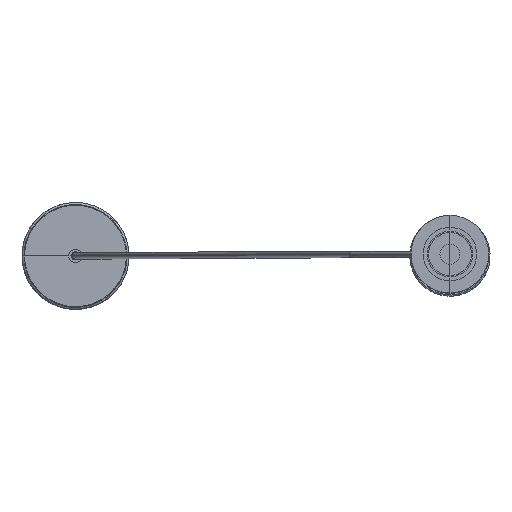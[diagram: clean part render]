
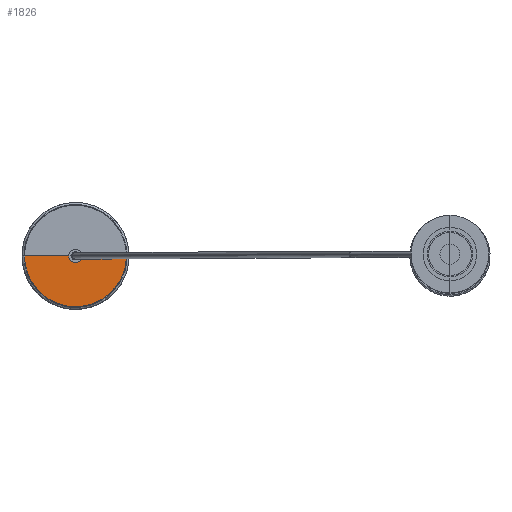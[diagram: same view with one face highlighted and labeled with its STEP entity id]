
A CAD part, top view. The second image highlights one B-rep face of the part: STEP entity #1826.
In plain terms, the highlighted planar face has unit normal (0, 0, 1).
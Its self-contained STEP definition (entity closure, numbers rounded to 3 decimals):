
#41=B_SPLINE_CURVE_WITH_KNOTS('',3,(#2834,#2835,#2836,#2837),
 .UNSPECIFIED.,.F.,.F.,(4,4),(0.833,1.),.UNSPECIFIED.);
#42=B_SPLINE_CURVE_WITH_KNOTS('',3,(#2839,#2840,#2841,#2842,#2843,#2844,
#2845),.UNSPECIFIED.,.F.,.F.,(4,1,1,1,4),(0.167,0.333,
0.5,0.667,0.833),.UNSPECIFIED.);
#43=B_SPLINE_CURVE_WITH_KNOTS('',3,(#2846,#2847,#2848,#2849),
 .UNSPECIFIED.,.F.,.F.,(4,4),(0.,0.167),.UNSPECIFIED.);
#142=PLANE('',#1989);
#207=FACE_OUTER_BOUND('',#330,.T.);
#330=EDGE_LOOP('',(#1299,#1300,#1301,#1302,#1303,#1304));
#465=CIRCLE('',#1990,5.);
#556=LINE('',#2811,#661);
#557=LINE('',#2830,#662);
#661=VECTOR('',#2279,304.8);
#662=VECTOR('',#2280,304.8);
#774=VERTEX_POINT('',#2807);
#775=VERTEX_POINT('',#2808);
#776=VERTEX_POINT('',#2810);
#779=VERTEX_POINT('',#2825);
#780=VERTEX_POINT('',#2833);
#781=VERTEX_POINT('',#2838);
#963=EDGE_CURVE('',#776,#774,#556,.T.);
#967=EDGE_CURVE('',#775,#779,#557,.T.);
#968=EDGE_CURVE('',#775,#774,#465,.T.);
#969=EDGE_CURVE('',#780,#779,#41,.T.);
#970=EDGE_CURVE('',#781,#780,#42,.T.);
#971=EDGE_CURVE('',#776,#781,#43,.T.);
#1299=ORIENTED_EDGE('',*,*,#968,.F.);
#1300=ORIENTED_EDGE('',*,*,#967,.T.);
#1301=ORIENTED_EDGE('',*,*,#969,.F.);
#1302=ORIENTED_EDGE('',*,*,#970,.F.);
#1303=ORIENTED_EDGE('',*,*,#971,.F.);
#1304=ORIENTED_EDGE('',*,*,#963,.T.);
#1826=ADVANCED_FACE('',(#207),#142,.T.);
#1989=AXIS2_PLACEMENT_3D('',#2831,#2281,#2282);
#1990=AXIS2_PLACEMENT_3D('',#2832,#2283,#2284);
#2279=DIRECTION('',(-1.,0.,0.));
#2280=DIRECTION('',(-1.,0.,0.));
#2281=DIRECTION('center_axis',(0.,0.,1.));
#2282=DIRECTION('ref_axis',(-1.,0.,0.));
#2283=DIRECTION('center_axis',(0.,0.,1.));
#2284=DIRECTION('ref_axis',(-1.,0.,0.));
#2807=CARTESIAN_POINT('',(-275.,0.,17.5));
#2808=CARTESIAN_POINT('',(-285.,0.,17.5));
#2810=CARTESIAN_POINT('',(-242.015,0.,17.5));
#2811=CARTESIAN_POINT('',(-242.015,0.,17.5));
#2825=CARTESIAN_POINT('',(-317.985,0.,17.5));
#2830=CARTESIAN_POINT('',(-285.,0.,17.5));
#2831=CARTESIAN_POINT('Origin',(-280.,0.,17.5));
#2832=CARTESIAN_POINT('Origin',(-280.,0.,17.5));
#2833=CARTESIAN_POINT('',(-312.896,-18.992,17.5));
#2834=CARTESIAN_POINT('Ctrl Pts',(-312.896,-18.992,17.5));
#2835=CARTESIAN_POINT('Ctrl Pts',(-316.249,-13.276,17.5));
#2836=CARTESIAN_POINT('Ctrl Pts',(-318.133,-6.712,17.5));
#2837=CARTESIAN_POINT('Ctrl Pts',(-317.985,0.,
17.5));
#2838=CARTESIAN_POINT('',(-247.104,-18.992,17.5));
#2839=CARTESIAN_POINT('Ctrl Pts',(-247.104,-18.992,17.5));
#2840=CARTESIAN_POINT('Ctrl Pts',(-250.458,-24.709,17.5));
#2841=CARTESIAN_POINT('Ctrl Pts',(-260.103,-34.445,17.5));
#2842=CARTESIAN_POINT('Ctrl Pts',(-280.,-39.755,17.5));
#2843=CARTESIAN_POINT('Ctrl Pts',(-299.897,-34.445,17.5));
#2844=CARTESIAN_POINT('Ctrl Pts',(-309.542,-24.709,17.5));
#2845=CARTESIAN_POINT('Ctrl Pts',(-312.896,-18.992,17.5));
#2846=CARTESIAN_POINT('Ctrl Pts',(-242.015,0.,
17.5));
#2847=CARTESIAN_POINT('Ctrl Pts',(-241.867,-6.712,17.5));
#2848=CARTESIAN_POINT('Ctrl Pts',(-243.751,-13.276,17.5));
#2849=CARTESIAN_POINT('Ctrl Pts',(-247.104,-18.992,17.5));
